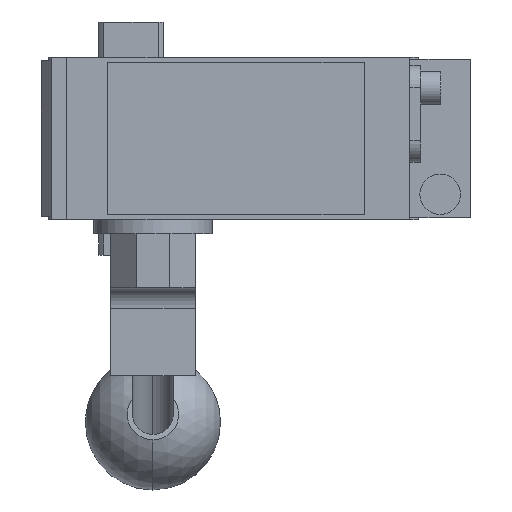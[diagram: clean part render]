
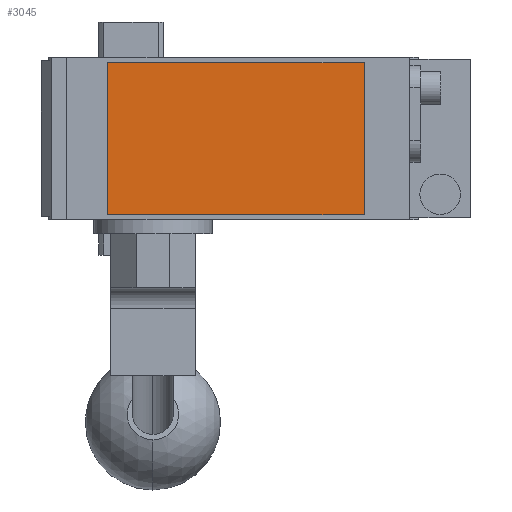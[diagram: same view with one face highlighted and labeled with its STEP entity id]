
A CAD part, front view. The second image highlights one B-rep face of the part: STEP entity #3045.
In plain terms, the highlighted planar face has unit normal (0, -1, 0).
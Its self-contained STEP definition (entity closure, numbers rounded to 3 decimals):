
#315 = DIRECTION ( 'NONE',  ( -1., 0., 0. ) ) ;
#411 = VERTEX_POINT ( 'NONE', #522 ) ;
#450 = ORIENTED_EDGE ( 'NONE', *, *, #3859, .T. ) ;
#522 = CARTESIAN_POINT ( 'NONE',  ( -7., -280.5, 22.5 ) ) ;
#730 = ORIENTED_EDGE ( 'NONE', *, *, #8268, .T. ) ;
#742 = VERTEX_POINT ( 'NONE', #9531 ) ;
#771 = VERTEX_POINT ( 'NONE', #6681 ) ;
#792 = VECTOR ( 'NONE', #1602, 1000. ) ;
#1134 = AXIS2_PLACEMENT_3D ( 'NONE', #9798, #5501, #9048 ) ;
#1602 = DIRECTION ( 'NONE',  ( 1., 0., 0. ) ) ;
#2248 = LINE ( 'NONE', #3138, #4507 ) ;
#2742 = DIRECTION ( 'NONE',  ( 0., 0., -1. ) ) ;
#3045 = ADVANCED_FACE ( 'NONE', ( #8936 ), #4429, .T. ) ;
#3138 = CARTESIAN_POINT ( 'NONE',  ( -7., -280.5, 22.5 ) ) ;
#3859 = EDGE_CURVE ( 'NONE', #4925, #742, #9794, .T. ) ;
#4234 = EDGE_CURVE ( 'NONE', #771, #4925, #8745, .T. ) ;
#4250 = CARTESIAN_POINT ( 'NONE',  ( 69., -280.5, 22.5 ) ) ;
#4303 = DIRECTION ( 'NONE',  ( 0., 0., 1. ) ) ;
#4429 = PLANE ( 'NONE',  #1134 ) ;
#4507 = VECTOR ( 'NONE', #315, 1000. ) ;
#4925 = VERTEX_POINT ( 'NONE', #8879 ) ;
#5501 = DIRECTION ( 'NONE',  ( 0., -1., 0. ) ) ;
#6216 = LINE ( 'NONE', #8842, #9701 ) ;
#6681 = CARTESIAN_POINT ( 'NONE',  ( -7., -280.5, -22.5 ) ) ;
#7090 = CARTESIAN_POINT ( 'NONE',  ( -7., -280.5, -22.5 ) ) ;
#7206 = ORIENTED_EDGE ( 'NONE', *, *, #4234, .T. ) ;
#7522 = ORIENTED_EDGE ( 'NONE', *, *, #9538, .T. ) ;
#8268 = EDGE_CURVE ( 'NONE', #411, #771, #6216, .T. ) ;
#8745 = LINE ( 'NONE', #7090, #792 ) ;
#8842 = CARTESIAN_POINT ( 'NONE',  ( -7., -280.5, 22.5 ) ) ;
#8879 = CARTESIAN_POINT ( 'NONE',  ( 69., -280.5, -22.5 ) ) ;
#8936 = FACE_OUTER_BOUND ( 'NONE', #8971, .T. ) ;
#8971 = EDGE_LOOP ( 'NONE', ( #730, #7206, #450, #7522 ) ) ;
#9048 = DIRECTION ( 'NONE',  ( 0., 0., -1. ) ) ;
#9531 = CARTESIAN_POINT ( 'NONE',  ( 69., -280.5, 22.5 ) ) ;
#9538 = EDGE_CURVE ( 'NONE', #742, #411, #2248, .T. ) ;
#9701 = VECTOR ( 'NONE', #2742, 1000. ) ;
#9794 = LINE ( 'NONE', #4250, #11081 ) ;
#9798 = CARTESIAN_POINT ( 'NONE',  ( 0., -280.5, 0. ) ) ;
#11081 = VECTOR ( 'NONE', #4303, 1000. ) ;
